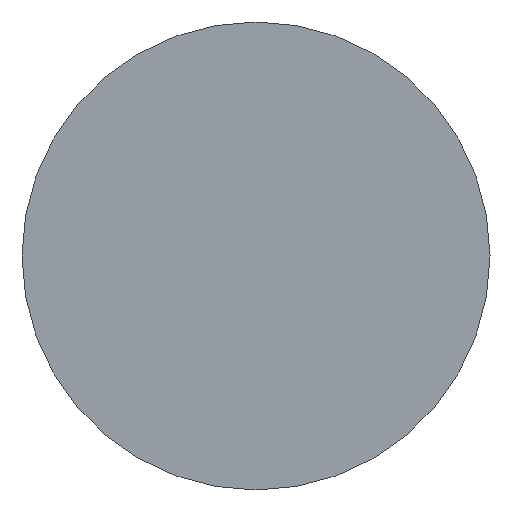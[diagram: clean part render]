
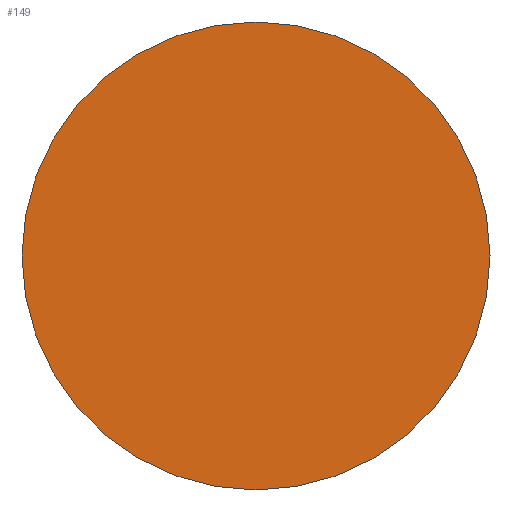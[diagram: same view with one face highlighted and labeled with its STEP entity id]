
A CAD part, left-side view. The second image highlights one B-rep face of the part: STEP entity #149.
In plain terms, the highlighted planar face has unit normal (-1, 0, 0).
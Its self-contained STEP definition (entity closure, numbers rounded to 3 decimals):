
#14 = DIRECTION ( 'NONE',  ( 1., 0., 0. ) ) ;
#20 = DIRECTION ( 'NONE',  ( 0., 0., 1. ) ) ;
#28 = AXIS2_PLACEMENT_3D ( 'NONE', #127, #133, #89 ) ;
#31 = AXIS2_PLACEMENT_3D ( 'NONE', #120, #87, #85 ) ;
#41 = EDGE_CURVE ( 'NONE', #108, #123, #165, .T. ) ;
#47 = CIRCLE ( 'NONE', #65, 10. ) ;
#65 = AXIS2_PLACEMENT_3D ( 'NONE', #75, #14, #20 ) ;
#75 = CARTESIAN_POINT ( 'NONE',  ( -17.6, 0., 0. ) ) ;
#85 = DIRECTION ( 'NONE',  ( 0., 0., 1. ) ) ;
#87 = DIRECTION ( 'NONE',  ( 1., 0., 0. ) ) ;
#89 = DIRECTION ( 'NONE',  ( 0., 0., 1. ) ) ;
#95 = CARTESIAN_POINT ( 'NONE',  ( -17.6, 0., 10. ) ) ;
#100 = CARTESIAN_POINT ( 'NONE',  ( -17.6, 0., -10. ) ) ;
#108 = VERTEX_POINT ( 'NONE', #100 ) ;
#120 = CARTESIAN_POINT ( 'NONE',  ( -17.6, -10., 0. ) ) ;
#123 = VERTEX_POINT ( 'NONE', #95 ) ;
#127 = CARTESIAN_POINT ( 'NONE',  ( -17.6, 0., 0. ) ) ;
#133 = DIRECTION ( 'NONE',  ( 1., 0., 0. ) ) ;
#136 = PLANE ( 'NONE',  #31 ) ;
#149 = ADVANCED_FACE ( 'NONE', ( #157 ), #136, .F. ) ;
#157 = FACE_OUTER_BOUND ( 'NONE', #192, .T. ) ;
#165 = CIRCLE ( 'NONE', #28, 10. ) ;
#186 = ORIENTED_EDGE ( 'NONE', *, *, #217, .F. ) ;
#187 = ORIENTED_EDGE ( 'NONE', *, *, #41, .F. ) ;
#192 = EDGE_LOOP ( 'NONE', ( #186, #187 ) ) ;
#217 = EDGE_CURVE ( 'NONE', #123, #108, #47, .T. ) ;
